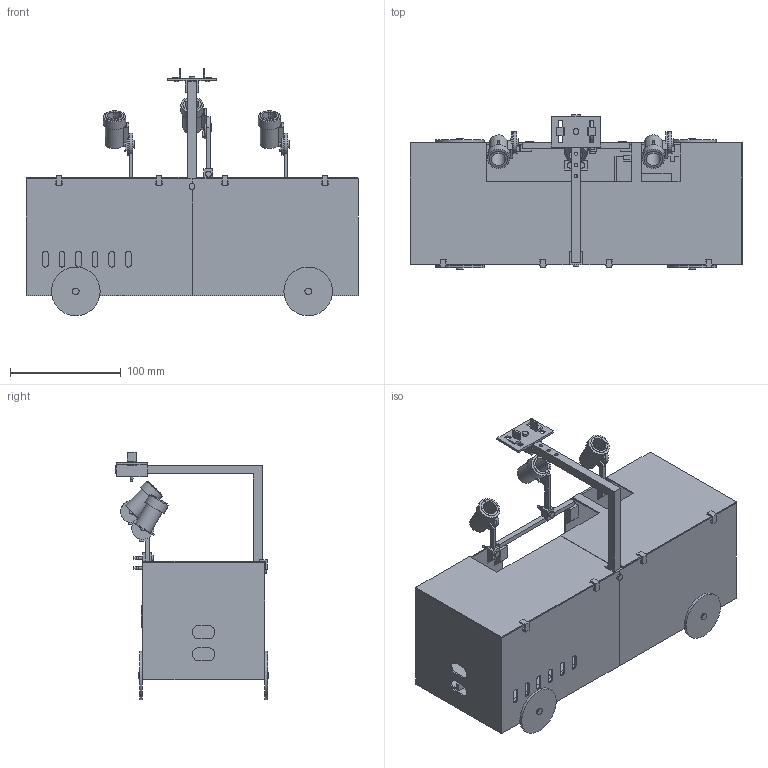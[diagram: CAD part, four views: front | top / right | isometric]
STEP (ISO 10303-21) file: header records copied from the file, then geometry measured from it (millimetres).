
FILE_DESCRIPTION(/* description */ (''),/* implementation_level */ '2;1');
FILE_NAME(/* name */ 'Robobus_v5_Assembled.step',/* time_stamp */ '2026-09-26T01:44:23+08:00',/* author */ (''),/* organization */ (''),/* preprocessor_version */ 'ST-DEVELOPER v20.2',/* originating_system */ 'Autodesk Translation Framework v15.15.0.0',/* authorisation */ '');
FILE_SCHEMA (('AUTOMOTIVE_DESIGN { 1 0 10303 214 3 1 1 }'));
Length unit declared in the file: millimetre
Products named in the file (29): 2026-09-26-01-44-12-449; 2026-09-26-01-44-13-008; 2026-09-26-01-44-13-132; 2026-09-26-01-44-13-285; 2026-09-26-01-44-13-384; 2026-09-26-01-44-13-457; 2026-09-26-01-44-13-549; 2026-09-26-01-44-13-648; 2026-09-26-01-44-13-727; 2026-09-26-01-44-13-830; 2026-09-26-01-44-14-008; 2026-09-26-01-44-14-155; 2026-09-26-01-44-14-251; 2026-09-26-01-44-14-383; 2026-09-26-01-44-14-481; 2026-09-26-01-44-14-577; 2026-09-26-01-44-14-681; 2026-09-26-01-44-14-813; 2026-09-26-01-44-14-940; 2026-09-26-01-44-15-062; 2026-09-26-01-44-15-183; 2026-09-26-01-44-15-306; 2026-09-26-01-44-15-448; 2026-09-26-01-44-15-569; 2026-09-26-01-44-15-674; 2026-09-26-01-44-15-795; 2026-09-26-01-44-15-905; 2026-09-26-01-44-16-017; 2026-09-26-01-44-16-145
Assembly tree (61 placements, depth 2):
  2026-09-26-01-44-12-449
    2026-09-26-01-44-13-008
    2026-09-26-01-44-13-132
    2026-09-26-01-44-13-285
    2026-09-26-01-44-13-384
    2026-09-26-01-44-13-457  x3
    2026-09-26-01-44-13-549  x4
    2026-09-26-01-44-13-648
    2026-09-26-01-44-13-727  x4
    2026-09-26-01-44-13-830  x4
    2026-09-26-01-44-14-008
    2026-09-26-01-44-14-155
    2026-09-26-01-44-14-251  x8
    2026-09-26-01-44-14-383
    2026-09-26-01-44-14-481
    2026-09-26-01-44-14-577
    2026-09-26-01-44-14-681  x3
    2026-09-26-01-44-14-813  x3
    2026-09-26-01-44-14-940  x3
    2026-09-26-01-44-15-062  x3
    2026-09-26-01-44-15-183  x3
    2026-09-26-01-44-15-306  x4
    2026-09-26-01-44-15-448
    2026-09-26-01-44-15-569
    2026-09-26-01-44-15-674  x2
    2026-09-26-01-44-15-795
    2026-09-26-01-44-15-905
    2026-09-26-01-44-16-017
    2026-09-26-01-44-16-145  x2
Bounding box: 300 x 138.9 x 223.6 mm (x, y, z)
Volume: 279837.9 mm3; surface area: 370046 mm2
Topology: 61 solids, 61 shells, 1224 faces, 3261 edges, 2174 vertices
Faces by surface type: plane 1068, cylinder 135, cone 21
Full cylindrical faces by diameter (mm): 2.4 x5, 2.8 x3, 3 x18, 3.6 x8, 4 x3, 4.6 x6, 5.4 x5, 6 x4, 7.2 x3, 12.6 x3, 16.4 x3, 20 x3, 44 x4
Entity records: 28383 total; most frequent: CARTESIAN_POINT 4942, ORIENTED_EDGE 4734, DIRECTION 4465, EDGE_CURVE 2367, LINE 2135, VECTOR 2135, VERTEX_POINT 1578, AXIS2_PLACEMENT_3D 1165
